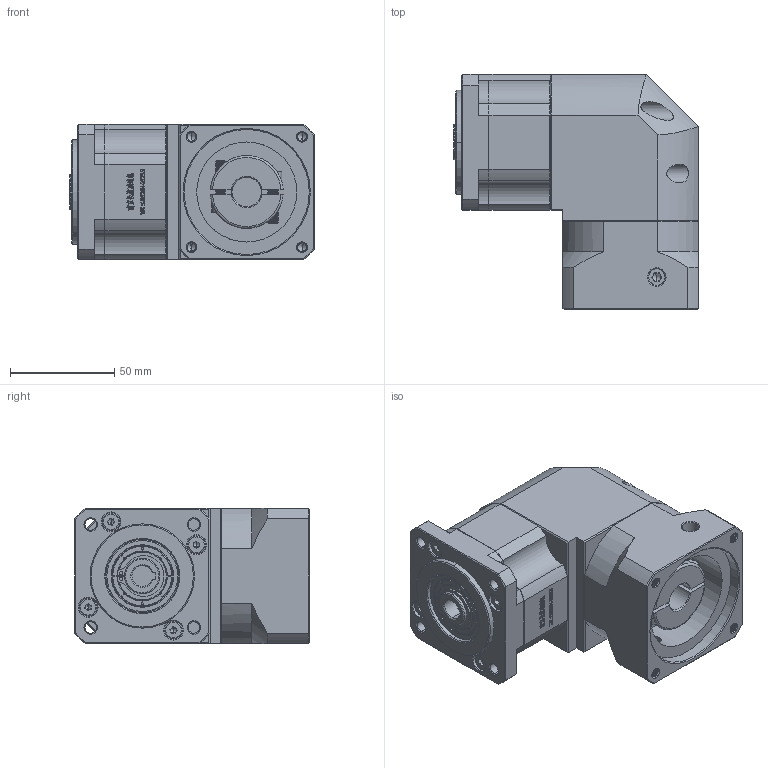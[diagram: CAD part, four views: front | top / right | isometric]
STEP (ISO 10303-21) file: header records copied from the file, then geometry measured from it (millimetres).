
FILE_DESCRIPTION (( 'STEP AP214' ), '1' );
FILE_NAME ('ZBR60-K10-L1-14-60-75-M5.STEP', '2022-04-19T08:59:09', ( '' ), ( 'Microsoft' ), 'SwSTEP 2.0', 'SolidWorks 2016', '' );
FILE_SCHEMA (( 'AUTOMOTIVE_DESIGN' ));
Length unit declared in the file: millimetre
Products named in the file (1): ZBR60-K10-L1-14-60-75-M5
Bounding box: 117.5 x 112.7 x 65 mm (x, y, z)
Volume: 533542.9 mm3; surface area: 78070 mm2
Topology: 5 solids, 5 shells, 2790 faces, 7567 edges, 4916 vertices
Faces by surface type: plane 1469, bspline 572, cylinder 393, cone 324, torus 32
Entity records: 149317 total; most frequent: CARTESIAN_POINT 52312, ORIENTED_EDGE 15078, DIRECTION 11581, EDGE_CURVE 7539, VECTOR 5007, LINE 5007, VERTEX_POINT 4916, AXIS2_PLACEMENT_3D 3287
